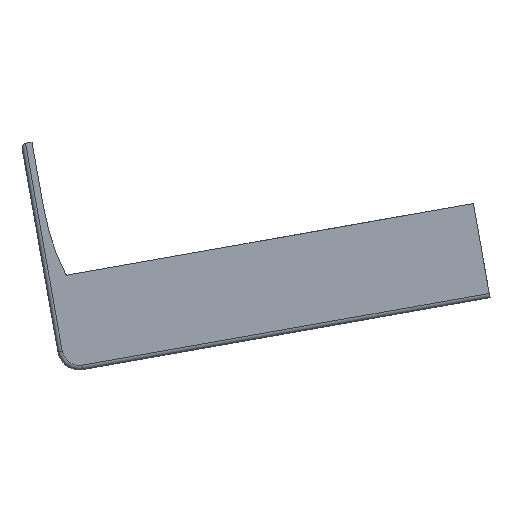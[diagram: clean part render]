
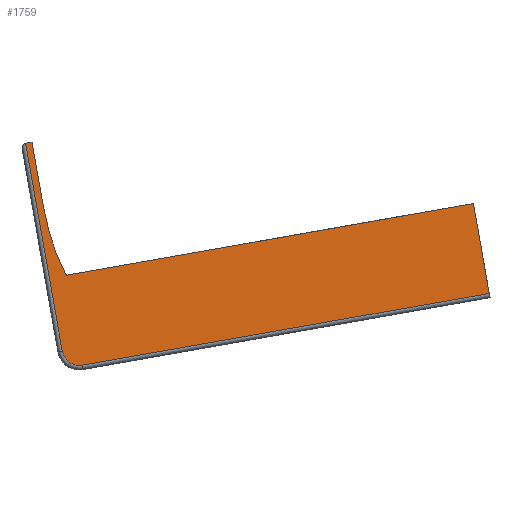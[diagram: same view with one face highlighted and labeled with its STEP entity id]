
A CAD part, left-side view. The second image highlights one B-rep face of the part: STEP entity #1759.
In plain terms, the highlighted planar face has unit normal (-1, 0, 0).
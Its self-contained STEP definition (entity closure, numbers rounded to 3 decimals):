
#50 = AXIS2_PLACEMENT_3D ( 'NONE', #7867, #10374, #3631 ) ;
#307 = DIRECTION ( 'NONE',  ( -1., 0., 0. ) ) ;
#335 = CARTESIAN_POINT ( 'NONE',  ( -75., 53.5, -47.5 ) ) ;
#415 = DIRECTION ( 'NONE',  ( 0., 0., -1. ) ) ;
#451 = CARTESIAN_POINT ( 'NONE',  ( -75., 1., 50. ) ) ;
#454 = AXIS2_PLACEMENT_3D ( 'NONE', #1244, #307, #415 ) ;
#498 = VERTEX_POINT ( 'NONE', #3513 ) ;
#639 = AXIS2_PLACEMENT_3D ( 'NONE', #5616, #4083, #5735 ) ;
#751 = ORIENTED_EDGE ( 'NONE', *, *, #9908, .F. ) ;
#785 = VECTOR ( 'NONE', #4835, 1000. ) ;
#1230 = CARTESIAN_POINT ( 'NONE',  ( -75., 53.5, -47.5 ) ) ;
#1244 = CARTESIAN_POINT ( 'NONE',  ( -75., 38.45, 10.076 ) ) ;
#1313 = CARTESIAN_POINT ( 'NONE',  ( -75., 53.5, -49. ) ) ;
#1679 = ORIENTED_EDGE ( 'NONE', *, *, #4917, .F. ) ;
#1759 = ADVANCED_FACE ( 'NONE', ( #3526 ), #4511, .T. ) ;
#1997 = CARTESIAN_POINT ( 'NONE',  ( -75., 1., 50. ) ) ;
#2003 = VECTOR ( 'NONE', #8526, 1000. ) ;
#2116 = VERTEX_POINT ( 'NONE', #1313 ) ;
#2178 = DIRECTION ( 'NONE',  ( 0., 1., 0. ) ) ;
#2253 = CARTESIAN_POINT ( 'NONE',  ( -75., 5., -49. ) ) ;
#2583 = VERTEX_POINT ( 'NONE', #3107 ) ;
#2703 = CARTESIAN_POINT ( 'NONE',  ( -75., 0., -50. ) ) ;
#2737 = VECTOR ( 'NONE', #2178, 1000. ) ;
#2869 = DIRECTION ( 'NONE',  ( -1., 0., 0. ) ) ;
#2888 = VERTEX_POINT ( 'NONE', #2253 ) ;
#3107 = CARTESIAN_POINT ( 'NONE',  ( -75., 1., -45. ) ) ;
#3159 = CARTESIAN_POINT ( 'NONE',  ( -75., 5., -49. ) ) ;
#3291 = CARTESIAN_POINT ( 'NONE',  ( -75., 22., 50. ) ) ;
#3305 = VERTEX_POINT ( 'NONE', #10800 ) ;
#3319 = CARTESIAN_POINT ( 'NONE',  ( -75., 22., -44.726 ) ) ;
#3513 = CARTESIAN_POINT ( 'NONE',  ( -75., 22., 50. ) ) ;
#3526 = FACE_OUTER_BOUND ( 'NONE', #9429, .T. ) ;
#3631 = DIRECTION ( 'NONE',  ( 0., -1., 0. ) ) ;
#3715 = EDGE_CURVE ( 'NONE', #2116, #8222, #6676, .T. ) ;
#3742 = ORIENTED_EDGE ( 'NONE', *, *, #5667, .T. ) ;
#3748 = DIRECTION ( 'NONE',  ( 0., 0., -1. ) ) ;
#3952 = CIRCLE ( 'NONE', #454, 57.576 ) ;
#4083 = DIRECTION ( 'NONE',  ( 1., 0., 0. ) ) ;
#4511 = PLANE ( 'NONE',  #6906 ) ;
#4835 = DIRECTION ( 'NONE',  ( 0., 1., 0. ) ) ;
#4837 = EDGE_CURVE ( 'NONE', #8222, #3305, #8473, .T. ) ;
#4859 = CIRCLE ( 'NONE', #639, 0.5 ) ;
#4917 = EDGE_CURVE ( 'NONE', #10455, #2583, #9765, .T. ) ;
#4988 = VECTOR ( 'NONE', #3748, 1000. ) ;
#5165 = ORIENTED_EDGE ( 'NONE', *, *, #3715, .F. ) ;
#5487 = CIRCLE ( 'NONE', #50, 4. ) ;
#5616 = CARTESIAN_POINT ( 'NONE',  ( -75., 22.5, -44.726 ) ) ;
#5617 = ORIENTED_EDGE ( 'NONE', *, *, #7879, .T. ) ;
#5643 = DIRECTION ( 'NONE',  ( 0., 0., -1. ) ) ;
#5667 = EDGE_CURVE ( 'NONE', #10455, #498, #8038, .T. ) ;
#5735 = DIRECTION ( 'NONE',  ( 0., -1., 0. ) ) ;
#5785 = CARTESIAN_POINT ( 'NONE',  ( -75., 53.5, -49. ) ) ;
#5928 = ORIENTED_EDGE ( 'NONE', *, *, #4837, .F. ) ;
#6355 = LINE ( 'NONE', #3159, #2737 ) ;
#6381 = CARTESIAN_POINT ( 'NONE',  ( -75., 1., 50. ) ) ;
#6422 = EDGE_CURVE ( 'NONE', #3305, #9350, #3952, .T. ) ;
#6549 = EDGE_CURVE ( 'NONE', #2888, #2116, #6355, .T. ) ;
#6676 = LINE ( 'NONE', #5785, #8333 ) ;
#6906 = AXIS2_PLACEMENT_3D ( 'NONE', #2703, #2869, #9396 ) ;
#7091 = ORIENTED_EDGE ( 'NONE', *, *, #6422, .F. ) ;
#7224 = EDGE_CURVE ( 'NONE', #498, #9437, #8241, .T. ) ;
#7288 = CARTESIAN_POINT ( 'NONE',  ( -75., 22.36, -45.206 ) ) ;
#7668 = VECTOR ( 'NONE', #5643, 1000. ) ;
#7867 = CARTESIAN_POINT ( 'NONE',  ( -75., 5., -45. ) ) ;
#7879 = EDGE_CURVE ( 'NONE', #9437, #9350, #4859, .T. ) ;
#8038 = LINE ( 'NONE', #451, #785 ) ;
#8222 = VERTEX_POINT ( 'NONE', #1230 ) ;
#8241 = LINE ( 'NONE', #3291, #7668 ) ;
#8333 = VECTOR ( 'NONE', #9190, 1000. ) ;
#8473 = LINE ( 'NONE', #335, #2003 ) ;
#8526 = DIRECTION ( 'NONE',  ( 0., -1., 0. ) ) ;
#9190 = DIRECTION ( 'NONE',  ( 0., 0., 1. ) ) ;
#9350 = VERTEX_POINT ( 'NONE', #7288 ) ;
#9396 = DIRECTION ( 'NONE',  ( 0., 0., 1. ) ) ;
#9429 = EDGE_LOOP ( 'NONE', ( #5928, #5165, #9992, #751, #1679, #3742, #10825, #5617, #7091 ) ) ;
#9437 = VERTEX_POINT ( 'NONE', #3319 ) ;
#9765 = LINE ( 'NONE', #6381, #4988 ) ;
#9908 = EDGE_CURVE ( 'NONE', #2583, #2888, #5487, .T. ) ;
#9992 = ORIENTED_EDGE ( 'NONE', *, *, #6549, .F. ) ;
#10374 = DIRECTION ( 'NONE',  ( 1., 0., 0. ) ) ;
#10455 = VERTEX_POINT ( 'NONE', #1997 ) ;
#10800 = CARTESIAN_POINT ( 'NONE',  ( -75., 38.45, -47.5 ) ) ;
#10825 = ORIENTED_EDGE ( 'NONE', *, *, #7224, .T. ) ;
